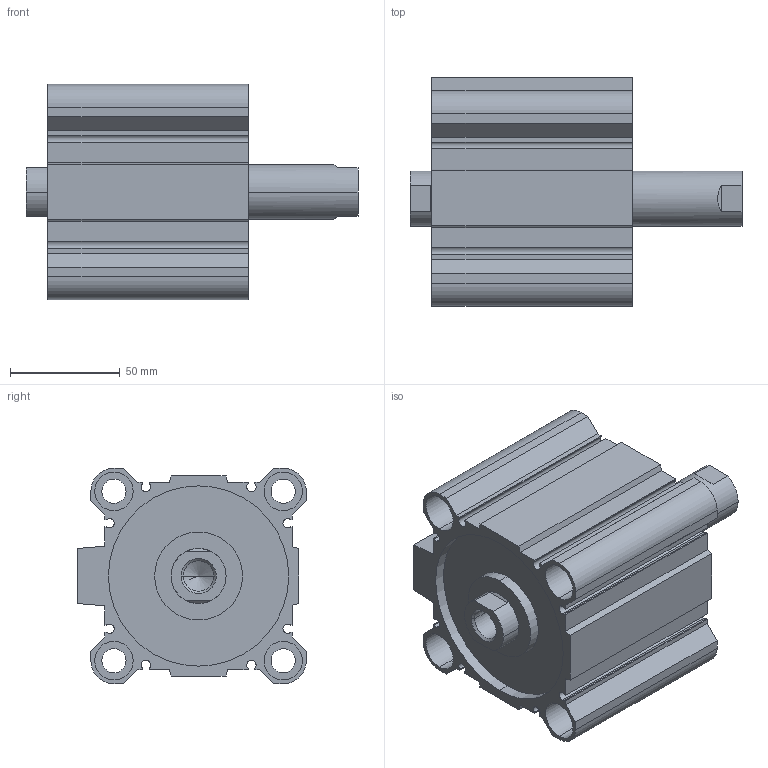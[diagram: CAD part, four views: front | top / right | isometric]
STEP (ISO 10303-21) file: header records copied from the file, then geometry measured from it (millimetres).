
FILE_DESCRIPTION (( 'STEP AP203' ), '1' );
FILE_NAME ('CCMB80-40F-P.STEP', '2020-08-05T11:50:20', ( '' ), ( '' ), 'SwSTEP 2.0', 'SolidWorks 2019', '' );
FILE_SCHEMA (( 'CONFIG_CONTROL_DESIGN' ));
Length unit declared in the file: millimetre
Products named in the file (1): CCMB80-40F-P
Bounding box: 151 x 104 x 98 mm (x, y, z)
Volume: 506915.6 mm3; surface area: 137245.9 mm2
Topology: 2 solids, 2 shells, 176 faces, 450 edges, 294 vertices
Faces by surface type: plane 90, cylinder 74, cone 12
Entity records: 5425 total; most frequent: DIRECTION 956, CARTESIAN_POINT 929, ORIENTED_EDGE 892, EDGE_CURVE 446, AXIS2_PLACEMENT_3D 337, VERTEX_POINT 294, LINE 282, VECTOR 282
